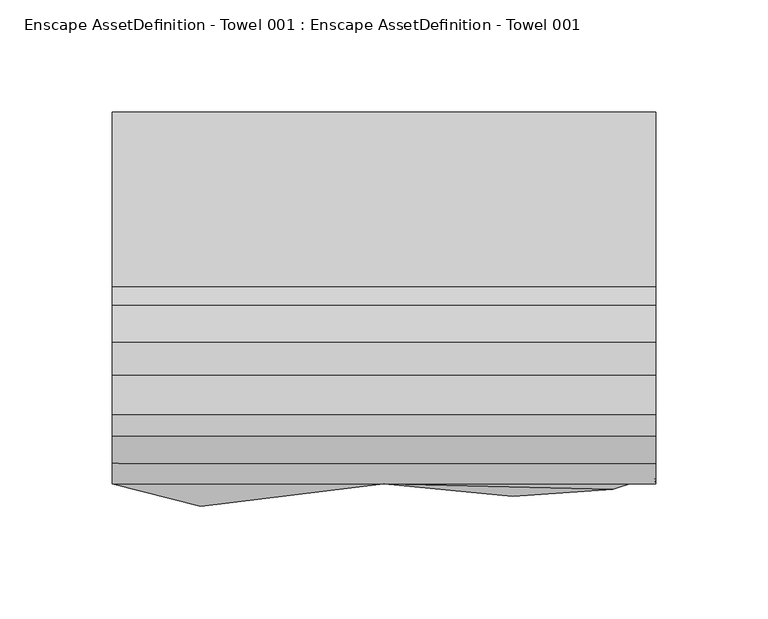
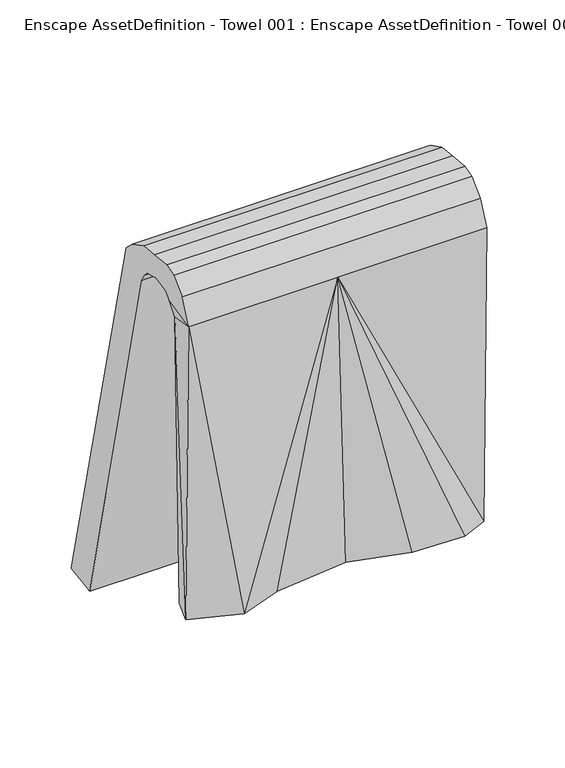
"""IFC4 building model written with IfcOpenShell, lengths in millimetres: geographic element geometry, Enscape AssetDefinition - Towel 001 : Enscape AssetDefinition - Towel 001."""

from ifc_helpers import new_model, si_unit, origin, place, context, project, spatial, triangles, source, transform, mapped, element, save


def enscape_assetdefinition_towel_001_enscape_assetdefinition_f5699c52(model_context):
    return source(origin(), model_context, "Body", "Tessellation", [
        triangles([(-182.6608164, -56.4341507, -264.8818515), (-222.1490311, -42.4648499, -264.8818515), (-216.2807483, -22.6832471, -264.6248905), (-151.2766492, -48.1381591, -261.6802483), (-92.2128035, -42.4648499, -260.9793281), (-181.6419651, -35.6766695, -264.5508943), (-154.6382355, -27.6806392, -261.1263031), (-221.8380763, -26.0708355, -14.5892292), (-222.1490311, -19.1886702, -4.3594706), (20.0615662, -25.9748476, -14.1642801), (-101.1817146, -26.0238408, -14.3922526), (-222.1490311, -37.3384685, 9.5528406), (-222.1490311, -14.619226, 0.1409829), (20.0615662, -19.1886702, -4.3594706), (20.0615662, -37.3384685, 9.5528406), (20.0615662, -46.4023684, -10.6077123), (-222.1490311, -15.4241267, 23.7441198), (20.0615662, -25.1219518, 20.8034767), (20.0615662, -14.619226, 0.1409829), (-222.1490311, -25.1219518, 20.8034767), (-222.1490311, 0.4029511, 2.9026478), (20.0615662, -15.4241267, 23.7441198), (-222.1490311, 2.1247421, 21.8283506), (20.0615662, -8.6719469, 2.2697244), (-222.1490311, -8.6719469, 2.2697244), (20.0615662, 0.4029511, 2.9026478), (20.0615662, 2.1247421, 21.8283506), (-222.1490311, 16.9659407, 20.5295086), (20.0615662, 16.9659407, 20.5295086), (-222.1490311, 15.5851088, -3.9615192), (-222.1490311, 12.0545365, -0.16498), (20.0615662, 12.0545365, -0.16498), (20.0615662, 33.3869451, 12.0155411), (-222.1490311, 33.3869451, 12.0155411), (-222.1490311, 41.6469447, 3.8205361), (-222.1490311, 93.2516754, -322.7748113), (-222.1490311, 19.5276303, -10.8476834), (20.0615662, 15.5851088, -3.9615192), (20.0615662, 41.6469447, 3.8205361), (20.0615662, 119.3645074, -318.6523158), (-222.1490311, 119.3645074, -318.6523158), (20.0615662, 19.5276303, -10.8476834), (20.0615662, 93.2516754, -322.7748113), (-222.1490311, -46.4023684, -10.6077123), (-101.0437416, -46.4023684, -10.6077123), (0.8199005, -48.9020659, -267.4435411), (16.117044, -22.1983044, -266.495652), (20.0615662, -42.4648499, -264.8818515), (-2.9296444, -28.5945278, -269.0973282), (-43.0237774, -31.0612286, -263.8689955), (-43.6806959, -51.8387099, -263.6400124), (-91.2799207, -21.7013643, -260.6703717)], [[47, 49, 11], [50, 11, 49], [11, 52, 7], [11, 50, 52], [7, 52, 5], [51, 5, 52], [52, 50, 51], [46, 51, 50], [50, 49, 46], [48, 46, 49], [49, 47, 48], [16, 48, 47], [46, 45, 51], [5, 51, 45], [45, 46, 48], [48, 16, 45], [12, 44, 45], [12, 45, 16], [42, 43, 40], [36, 43, 42], [41, 40, 43], [43, 36, 41], [40, 39, 42], [39, 40, 41], [38, 42, 39], [37, 42, 38], [42, 37, 36], [35, 41, 36], [36, 37, 35], [41, 35, 39], [39, 33, 38], [33, 39, 35], [32, 38, 33], [38, 30, 37], [30, 38, 32], [34, 35, 37], [37, 30, 34], [35, 34, 33], [33, 29, 32], [29, 33, 34], [26, 32, 29], [31, 32, 26], [32, 31, 30], [28, 34, 30], [30, 31, 28], [34, 28, 29], [29, 27, 26], [27, 29, 28], [19, 13, 25], [24, 26, 27], [25, 24, 19], [26, 21, 31], [21, 26, 24], [24, 25, 21], [23, 28, 31], [31, 21, 23], [28, 23, 27], [19, 24, 22], [27, 22, 24], [22, 27, 23], [17, 23, 21], [21, 25, 17], [23, 17, 22], [12, 20, 13], [20, 17, 25], [25, 13, 20], [22, 18, 19], [17, 20, 18], [18, 22, 17], [15, 18, 20], [20, 12, 15], [16, 15, 12], [47, 10, 16], [15, 16, 10], [11, 10, 47], [18, 15, 14], [14, 19, 18], [10, 14, 15], [13, 19, 14], [13, 9, 12], [44, 12, 9], [14, 9, 13], [10, 11, 9], [9, 14, 10], [9, 8, 44], [11, 8, 9], [2, 44, 8], [8, 3, 2], [6, 3, 8], [8, 11, 6], [11, 7, 6], [5, 4, 7], [6, 7, 4], [4, 5, 45], [1, 2, 3], [3, 6, 1], [4, 1, 6], [44, 2, 1], [1, 45, 44], [1, 4, 45]]),
    ])


if __name__ == "__main__":
    model = new_model("IFC4")
    model_context = context("Model", 3, world=origin())
    ifc_project = project(units=[si_unit("LENGTHUNIT", "METRE", prefix="MILLI")], contexts=[model_context])
    site = spatial("IfcSite", under=ifc_project)
    building = spatial("IfcBuilding", under=site)
    placement = place(None, origin())
    enscape_assetdefinition_towel_001_enscape_assetdefinition_shape = enscape_assetdefinition_towel_001_enscape_assetdefinition_f5699c52(model_context)
    element("IfcGeographicElement", 1, ObjectType="Enscape AssetDefinition - Towel 001 : Enscape AssetDefinition - Towel 001", at=placement, inside=building, context=model_context, shape_type="MappedRepresentation", body=[
        mapped(enscape_assetdefinition_towel_001_enscape_assetdefinition_shape, transform((0.0, 0.0, 0.0), x_axis=(1.0, 0.0, 0.0), y_axis=(0.0, 1.0, 0.0), z_axis=(0.0, 0.0, 1.0))),
    ])
    save(model, "model.ifc")
